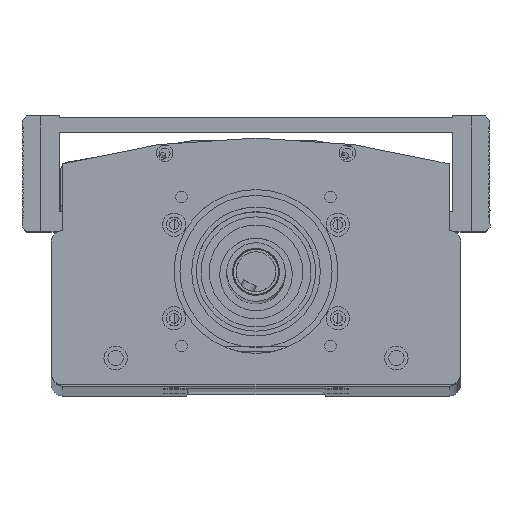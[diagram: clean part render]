
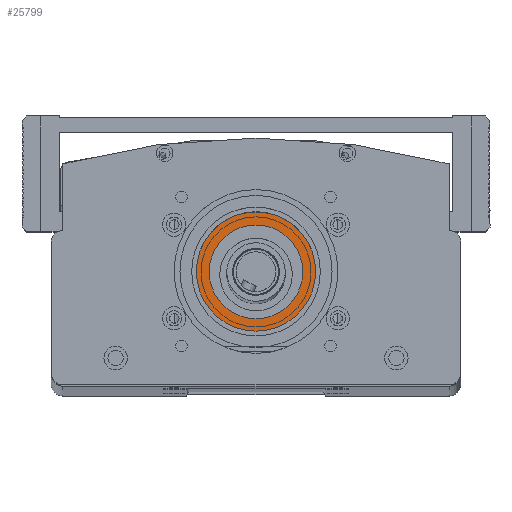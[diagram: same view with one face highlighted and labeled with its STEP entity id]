
A CAD part, top view. The second image highlights one B-rep face of the part: STEP entity #25799.
In plain terms, the highlighted planar face has unit normal (0, 0, 1) as drawn and (0, 0, -1) by its records, which use the part's own axes.
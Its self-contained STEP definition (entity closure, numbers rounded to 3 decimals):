
#336 = EDGE_CURVE ( 'NONE', #7467, #2213, #40660, .T. ) ;
#670 = CIRCLE ( 'NONE', #26588, 25.5 ) ;
#989 = AXIS2_PLACEMENT_3D ( 'NONE', #8231, #33225, #11815 ) ;
#1699 = DIRECTION ( 'NONE',  ( 0., 0., -1. ) ) ;
#2213 = VERTEX_POINT ( 'NONE', #15074 ) ;
#3609 = CARTESIAN_POINT ( 'NONE',  ( 28.5, 52.547, 87. ) ) ;
#3977 = ORIENTED_EDGE ( 'NONE', *, *, #7689, .T. ) ;
#4021 = ORIENTED_EDGE ( 'NONE', *, *, #336, .T. ) ;
#5564 = VECTOR ( 'NONE', #5762, 1000. ) ;
#5736 = CARTESIAN_POINT ( 'NONE',  ( 63.5, 79., 87. ) ) ;
#5762 = DIRECTION ( 'NONE',  ( 0., 1., 0. ) ) ;
#5910 = EDGE_CURVE ( 'NONE', #29292, #31336, #24143, .T. ) ;
#6006 = EDGE_CURVE ( 'NONE', #20459, #18132, #30284, .T. ) ;
#6107 = EDGE_CURVE ( 'NONE', #2213, #28531, #670, .T. ) ;
#6775 = ORIENTED_EDGE ( 'NONE', *, *, #6006, .T. ) ;
#7467 = VERTEX_POINT ( 'NONE', #25316 ) ;
#7689 = EDGE_CURVE ( 'NONE', #28531, #20459, #32952, .T. ) ;
#8231 = CARTESIAN_POINT ( 'NONE',  ( 46., 34., 87. ) ) ;
#8293 = CARTESIAN_POINT ( 'NONE',  ( 46., 34., 87. ) ) ;
#9231 = EDGE_CURVE ( 'NONE', #29012, #18132, #11656, .T. ) ;
#9779 = DIRECTION ( 'NONE',  ( 0., 0., -1. ) ) ;
#9953 = CIRCLE ( 'NONE', #10543, 20. ) ;
#10463 = FACE_OUTER_BOUND ( 'NONE', #45139, .T. ) ;
#10502 = VECTOR ( 'NONE', #17898, 1000. ) ;
#10543 = AXIS2_PLACEMENT_3D ( 'NONE', #20253, #45236, #23826 ) ;
#11212 = DIRECTION ( 'NONE',  ( 0., 0., -1. ) ) ;
#11656 = LINE ( 'NONE', #14290, #10502 ) ;
#11815 = DIRECTION ( 'NONE',  ( -1., 0., 0. ) ) ;
#12793 = DIRECTION ( 'NONE',  ( 1., 0., 0. ) ) ;
#14290 = CARTESIAN_POINT ( 'NONE',  ( 63.5, 49., 87. ) ) ;
#15074 = CARTESIAN_POINT ( 'NONE',  ( 20.5, 34., 87. ) ) ;
#15224 = ORIENTED_EDGE ( 'NONE', *, *, #9231, .F. ) ;
#15461 = DIRECTION ( 'NONE',  ( -1., 0., 0. ) ) ;
#17898 = DIRECTION ( 'NONE',  ( 0., 1., 0. ) ) ;
#18132 = VERTEX_POINT ( 'NONE', #5736 ) ;
#18243 = CARTESIAN_POINT ( 'NONE',  ( 63.5, 52.547, 87. ) ) ;
#18929 = DIRECTION ( 'NONE',  ( 0., 0., -1. ) ) ;
#20253 = CARTESIAN_POINT ( 'NONE',  ( 46., 34., 87. ) ) ;
#20459 = VERTEX_POINT ( 'NONE', #29641 ) ;
#21805 = CARTESIAN_POINT ( 'NONE',  ( 66., 34., 87. ) ) ;
#21917 = VECTOR ( 'NONE', #12793, 1000. ) ;
#23098 = CARTESIAN_POINT ( 'NONE',  ( 46., 34., 87. ) ) ;
#23826 = DIRECTION ( 'NONE',  ( -1., 0., 0. ) ) ;
#24143 = CIRCLE ( 'NONE', #41804, 20. ) ;
#25316 = CARTESIAN_POINT ( 'NONE',  ( 71.5, 34., 87. ) ) ;
#25799 = ADVANCED_FACE ( 'NONE', ( #10463, #29497 ), #36857, .T. ) ;
#26588 = AXIS2_PLACEMENT_3D ( 'NONE', #31187, #9779, #34801 ) ;
#26681 = DIRECTION ( 'NONE',  ( -1., 0., 0. ) ) ;
#27144 = CARTESIAN_POINT ( 'NONE',  ( 28.5, 49., 87. ) ) ;
#27997 = ORIENTED_EDGE ( 'NONE', *, *, #5910, .F. ) ;
#28293 = AXIS2_PLACEMENT_3D ( 'NONE', #32633, #11212, #36203 ) ;
#28531 = VERTEX_POINT ( 'NONE', #3609 ) ;
#29012 = VERTEX_POINT ( 'NONE', #18243 ) ;
#29125 = EDGE_CURVE ( 'NONE', #29012, #7467, #29186, .T. ) ;
#29186 = CIRCLE ( 'NONE', #989, 25.5 ) ;
#29292 = VERTEX_POINT ( 'NONE', #30674 ) ;
#29497 = FACE_BOUND ( 'NONE', #37215, .T. ) ;
#29641 = CARTESIAN_POINT ( 'NONE',  ( 28.5, 79., 87. ) ) ;
#30284 = LINE ( 'NONE', #34169, #21917 ) ;
#30674 = CARTESIAN_POINT ( 'NONE',  ( 26., 34., 87. ) ) ;
#31187 = CARTESIAN_POINT ( 'NONE',  ( 46., 34., 87. ) ) ;
#31336 = VERTEX_POINT ( 'NONE', #21805 ) ;
#32633 = CARTESIAN_POINT ( 'NONE',  ( 46., 34., 87. ) ) ;
#32952 = LINE ( 'NONE', #27144, #5564 ) ;
#32980 = ORIENTED_EDGE ( 'NONE', *, *, #37544, .F. ) ;
#33225 = DIRECTION ( 'NONE',  ( 0., 0., -1. ) ) ;
#34169 = CARTESIAN_POINT ( 'NONE',  ( 28.5, 79., 87. ) ) ;
#34801 = DIRECTION ( 'NONE',  ( -1., 0., 0. ) ) ;
#36203 = DIRECTION ( 'NONE',  ( -1., 0., 0. ) ) ;
#36857 = PLANE ( 'NONE',  #41030 ) ;
#37215 = EDGE_LOOP ( 'NONE', ( #27997, #32980 ) ) ;
#37544 = EDGE_CURVE ( 'NONE', #31336, #29292, #9953, .T. ) ;
#40660 = CIRCLE ( 'NONE', #28293, 25.5 ) ;
#41030 = AXIS2_PLACEMENT_3D ( 'NONE', #8293, #18929, #15461 ) ;
#41804 = AXIS2_PLACEMENT_3D ( 'NONE', #23098, #1699, #26681 ) ;
#42025 = ORIENTED_EDGE ( 'NONE', *, *, #6107, .T. ) ;
#45139 = EDGE_LOOP ( 'NONE', ( #45946, #4021, #42025, #3977, #6775, #15224 ) ) ;
#45236 = DIRECTION ( 'NONE',  ( 0., 0., -1. ) ) ;
#45946 = ORIENTED_EDGE ( 'NONE', *, *, #29125, .T. ) ;
